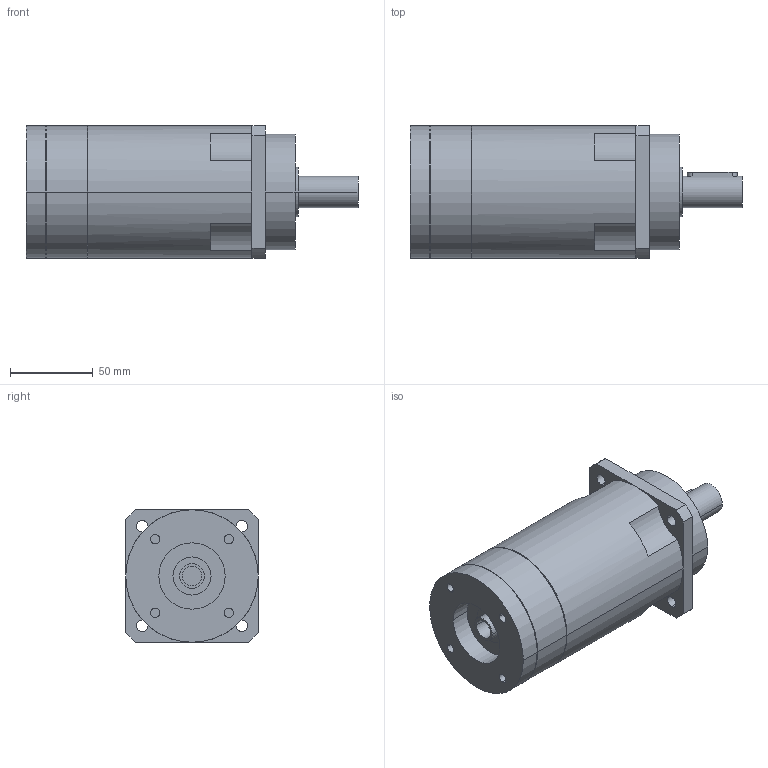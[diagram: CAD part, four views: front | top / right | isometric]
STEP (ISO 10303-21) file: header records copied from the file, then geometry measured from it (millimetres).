
FILE_DESCRIPTION(('CoCreate Modeling STEP Export'),'2;1');
FILE_NAME('GPR100_ig-48-64-80-100-120-144-180-216_19_B5_12.7_P17.stp','2014-08-26T11:54:25',(''),(''),'CoCreate Modeling STEP processor for AP214 (Solid Model)','CoCreate Modeling 16.00C 25-Feb-2009 (C) Parametric Technology GmbH','');
FILE_SCHEMA(('AUTOMOTIVE_DESIGN { 1 0 10303 214 1 1 1 1 }'));
Length unit declared in the file: millimetre
Products named in the file (2): GPR100_ig-48-64-80-100-120-144-180-216_19_B5_12.7_P17
Assembly tree (1 placements, depth 2):
  GPR100_ig-48-64-80-100-120-144-180-216_19_B5_12.7_P17
    GPR100_ig-48-64-80-100-120-144-180-216_19_B5_12.7_P17
Bounding box: 200.4 x 80 x 80 mm (x, y, z)
Volume: 789175 mm3; surface area: 61445.2 mm2
Topology: 1 solids, 1 shells, 96 faces, 248 edges, 170 vertices
Faces by surface type: cylinder 56, plane 34, cone 6
Entity records: 2599 total; most frequent: ORIENTED_EDGE 492, CARTESIAN_POINT 466, DIRECTION 376, EDGE_CURVE 246, VERTEX_POINT 170, AXIS2_PLACEMENT_3D 144, EDGE_LOOP 122, FACE_OUTER_BOUND 96
